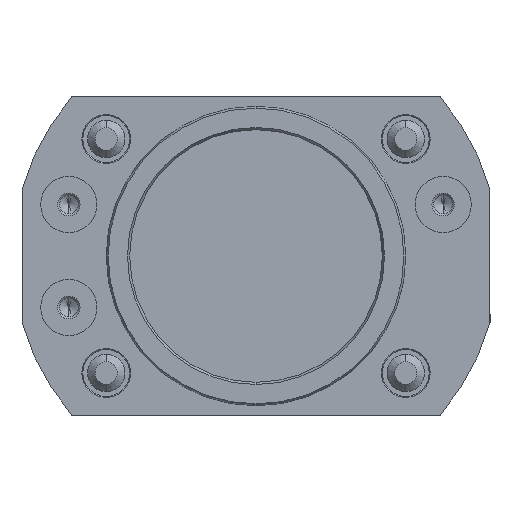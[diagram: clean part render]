
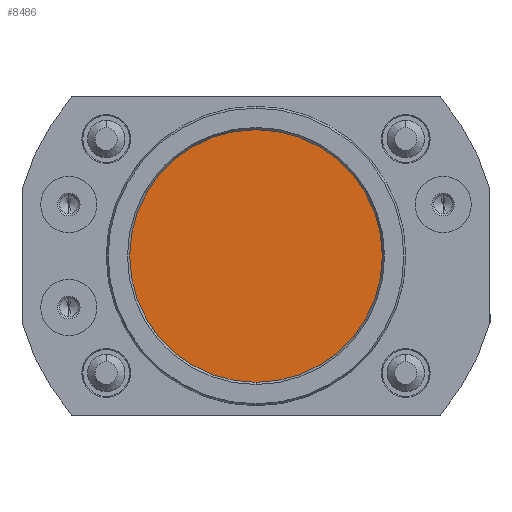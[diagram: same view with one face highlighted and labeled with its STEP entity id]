
A CAD part, front view. The second image highlights one B-rep face of the part: STEP entity #8486.
In plain terms, the highlighted planar face has unit normal (0, -1, 0).
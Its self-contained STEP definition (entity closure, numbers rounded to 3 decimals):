
#2717 = DIRECTION ( 'NONE',  ( 0., 1., 0. ) ) ;
#2718 = DIRECTION ( 'NONE',  ( 0., 0., 1. ) ) ;
#3387 = AXIS2_PLACEMENT_3D ( 'NONE', #3413, #2717, #2718 ) ;
#3392 = CIRCLE ( 'NONE', #3387, 13.5 ) ;
#3413 = CARTESIAN_POINT ( 'NONE',  ( 0., 3.1, 0. ) ) ;
#3632 = CARTESIAN_POINT ( 'NONE',  ( 0., 3.1, 13.5 ) ) ;
#3679 = CARTESIAN_POINT ( 'NONE',  ( 0., 3.1, -13.5 ) ) ;
#3764 = DIRECTION ( 'NONE',  ( 0., 0., -1. ) ) ;
#3765 = DIRECTION ( 'NONE',  ( 0., -1., 0. ) ) ;
#3766 = CARTESIAN_POINT ( 'NONE',  ( 0., 3.1, 0. ) ) ;
#3767 = CARTESIAN_POINT ( 'NONE',  ( 0., 3.1, 0. ) ) ;
#3770 = CIRCLE ( 'NONE', #3771, 13.5 ) ;
#3771 = AXIS2_PLACEMENT_3D ( 'NONE', #3767, #3826, #3825 ) ;
#3774 = FACE_OUTER_BOUND ( 'NONE', #8501, .T. ) ;
#3775 = PLANE ( 'NONE',  #3778 ) ;
#3778 = AXIS2_PLACEMENT_3D ( 'NONE', #3766, #3765, #3764 ) ;
#3825 = DIRECTION ( 'NONE',  ( 0., 0., 1. ) ) ;
#3826 = DIRECTION ( 'NONE',  ( 0., 1., 0. ) ) ;
#8425 = VERTEX_POINT ( 'NONE', #3632 ) ;
#8427 = EDGE_CURVE ( 'NONE', #8440, #8425, #3392, .T. ) ;
#8440 = VERTEX_POINT ( 'NONE', #3679 ) ;
#8486 = ADVANCED_FACE ( 'NONE', ( #3774 ), #3775, .T. ) ;
#8487 = ORIENTED_EDGE ( 'NONE', *, *, #8427, .F. ) ;
#8488 = EDGE_CURVE ( 'NONE', #8425, #8440, #3770, .T. ) ;
#8500 = ORIENTED_EDGE ( 'NONE', *, *, #8488, .F. ) ;
#8501 = EDGE_LOOP ( 'NONE', ( #8500, #8487 ) ) ;
